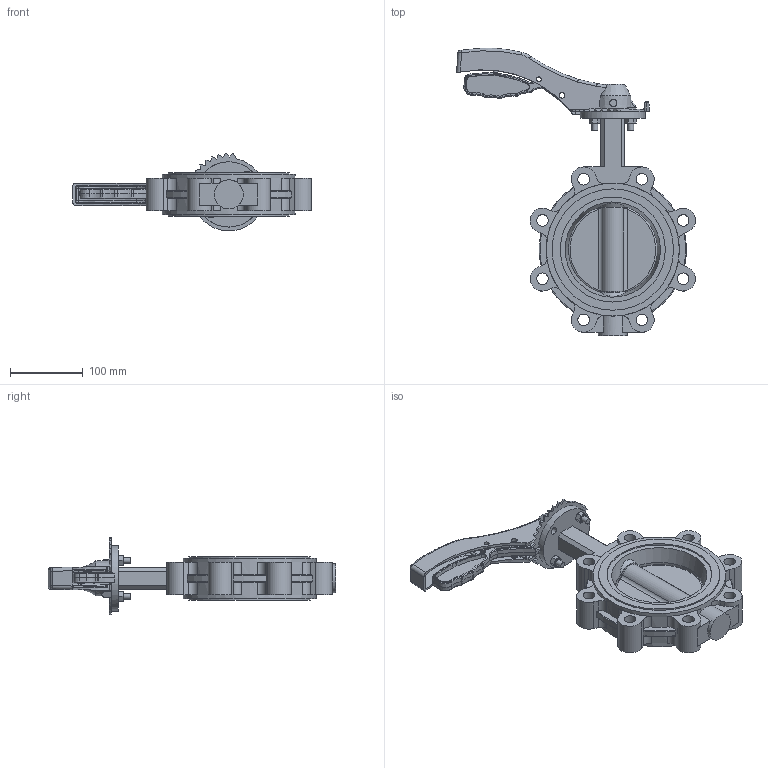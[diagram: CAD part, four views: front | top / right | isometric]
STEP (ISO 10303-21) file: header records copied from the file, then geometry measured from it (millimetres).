
FILE_DESCRIPTION (( 'STEP AP214' ), '1' );
FILE_NAME ('忒梟 等標評概Fig3240-125-16.STEP', '2026-03-20T06:32:01', ( '' ), ( '' ), 'SwSTEP 2.0', 'SolidWorks 2024', '' );
FILE_SCHEMA (( 'AUTOMOTIVE_DESIGN' ));
Length unit declared in the file: millimetre
Products named in the file (1): 手柄 单夹蝶阀Fig3240-125-16
Bounding box: 329.49 x 396.89 x 107.39 mm (x, y, z)
Volume: 1587404.2 mm3; surface area: 273444.5 mm2
Topology: 1 solids, 9 shells, 1197 faces, 3372 edges, 2231 vertices
Faces by surface type: plane 783, cylinder 195, bspline 116, cone 75, torus 28
Full cylindrical faces by diameter (mm): 6.303 x1, 6.618 x3, 7.816 x2, 8 x4, 10 x4, 10.085 x1, 11.856 x2, 15.4 x2, 16 x8, 19.1 x1, 24.708 x1, 28 x1, 40 x1, 90 x1, 144.8 x2, 149.3 x1, 167.3 x2, 183.3 x2
Entity records: 61956 total; most frequent: CARTESIAN_POINT 19918, ORIENTED_EDGE 6550, DIRECTION 5053, EDGE_CURVE 3275, VERTEX_POINT 2195, VECTOR 2085, LINE 2085, AXIS2_PLACEMENT_3D 1484
